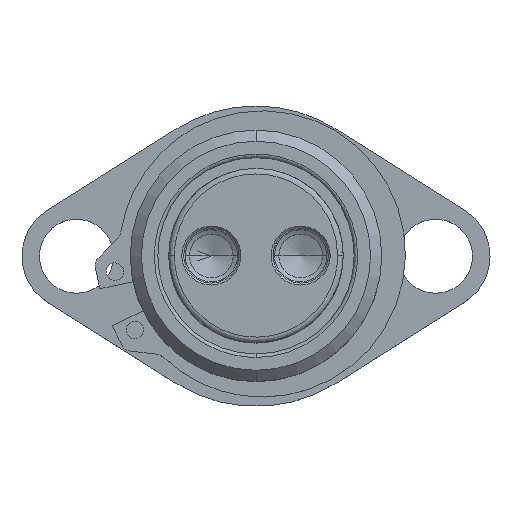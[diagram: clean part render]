
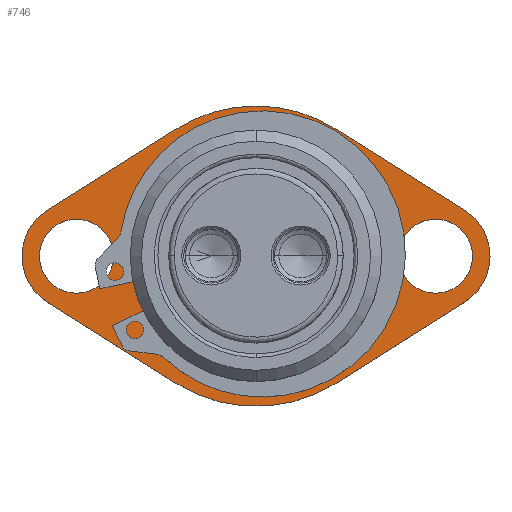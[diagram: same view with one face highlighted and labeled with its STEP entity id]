
A CAD part, top view. The second image highlights one B-rep face of the part: STEP entity #746.
In plain terms, the highlighted planar face has unit normal (0, 0, 1) as drawn and (0, 1, 0) by its records, which use the part's own axes.
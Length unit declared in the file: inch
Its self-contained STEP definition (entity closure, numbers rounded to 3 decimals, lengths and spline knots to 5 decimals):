
#105 = CARTESIAN_POINT ( 'NONE',  ( -1.285, 0.25, 0.265 ) ) ;
#139 = AXIS2_PLACEMENT_3D ( 'NONE', #3296, #2841, #2007 ) ;
#219 = EDGE_CURVE ( 'NONE', #3384, #1101, #4902, .T. ) ;
#251 = CIRCLE ( 'NONE', #574, 0.265 ) ;
#267 = DIRECTION ( 'NONE',  ( 0., -1., 0. ) ) ;
#346 = DIRECTION ( 'NONE',  ( 0., -1., 0. ) ) ;
#357 = DIRECTION ( 'NONE',  ( 0., 0., -1. ) ) ;
#368 = ORIENTED_EDGE ( 'NONE', *, *, #2235, .T. ) ;
#427 = VERTEX_POINT ( 'NONE', #1592 ) ;
#457 = FACE_OUTER_BOUND ( 'NONE', #1868, .T. ) ;
#573 = CARTESIAN_POINT ( 'NONE',  ( -1.4929, 0.25, -0.32997 ) ) ;
#574 = AXIS2_PLACEMENT_3D ( 'NONE', #3278, #1025, #4177 ) ;
#640 = EDGE_CURVE ( 'NONE', #5629, #787, #1326, .T. ) ;
#641 = CARTESIAN_POINT ( 'NONE',  ( 1.285, 0.25, 0. ) ) ;
#670 = CARTESIAN_POINT ( 'NONE',  ( -1.4929, 0.25, -0.32997 ) ) ;
#691 = EDGE_CURVE ( 'NONE', #1299, #4292, #1832, .T. ) ;
#707 = EDGE_CURVE ( 'NONE', #2969, #5481, #4274, .T. ) ;
#716 = DIRECTION ( 'NONE',  ( -0.846, 0., 0.533 ) ) ;
#746 = ADVANCED_FACE ( 'NONE', ( #3224, #457, #3854, #1618 ), #3100, .T. ) ;
#756 = AXIS2_PLACEMENT_3D ( 'NONE', #3495, #346, #4418 ) ;
#787 = VERTEX_POINT ( 'NONE', #4025 ) ;
#813 = DIRECTION ( 'NONE',  ( 0., -1., 0. ) ) ;
#833 = DIRECTION ( 'NONE',  ( 0., 0., 1. ) ) ;
#881 = DIRECTION ( 'NONE',  ( 0., -1., 0. ) ) ;
#922 = ORIENTED_EDGE ( 'NONE', *, *, #691, .T. ) ;
#975 = LINE ( 'NONE', #1534, #5338 ) ;
#983 = EDGE_LOOP ( 'NONE', ( #368, #1169 ) ) ;
#1025 = DIRECTION ( 'NONE',  ( 0., -1., 0. ) ) ;
#1062 = CIRCLE ( 'NONE', #1755, 0.265 ) ;
#1101 = VERTEX_POINT ( 'NONE', #1332 ) ;
#1169 = ORIENTED_EDGE ( 'NONE', *, *, #640, .T. ) ;
#1195 = ORIENTED_EDGE ( 'NONE', *, *, #2941, .F. ) ;
#1216 = LINE ( 'NONE', #3024, #1426 ) ;
#1221 = CIRCLE ( 'NONE', #139, 0.265 ) ;
#1299 = VERTEX_POINT ( 'NONE', #1392 ) ;
#1304 = AXIS2_PLACEMENT_3D ( 'NONE', #2216, #813, #2955 ) ;
#1315 = EDGE_CURVE ( 'NONE', #4914, #2969, #3790, .T. ) ;
#1326 = CIRCLE ( 'NONE', #5003, 0.265 ) ;
#1332 = CARTESIAN_POINT ( 'NONE',  ( 1.4929, 0.25, 0.32997 ) ) ;
#1382 = ORIENTED_EDGE ( 'NONE', *, *, #4022, .T. ) ;
#1392 = CARTESIAN_POINT ( 'NONE',  ( 0., 0.25, -0.9 ) ) ;
#1421 = CARTESIAN_POINT ( 'NONE',  ( 0.57305, 0.25, 0.90952 ) ) ;
#1426 = VECTOR ( 'NONE', #3046, 39.37008 ) ;
#1525 = LINE ( 'NONE', #670, #4947 ) ;
#1534 = CARTESIAN_POINT ( 'NONE',  ( 0.57305, 0.25, 0.90952 ) ) ;
#1571 = CIRCLE ( 'NONE', #756, 0.9 ) ;
#1573 = VERTEX_POINT ( 'NONE', #5232 ) ;
#1592 = CARTESIAN_POINT ( 'NONE',  ( 1.285, 0.25, 0.265 ) ) ;
#1614 = ORIENTED_EDGE ( 'NONE', *, *, #4527, .T. ) ;
#1618 = FACE_BOUND ( 'NONE', #4550, .T. ) ;
#1663 = CARTESIAN_POINT ( 'NONE',  ( 1.285, 0.25, 0. ) ) ;
#1666 = CARTESIAN_POINT ( 'NONE',  ( -1.4929, 0.25, 0.32997 ) ) ;
#1674 = CARTESIAN_POINT ( 'NONE',  ( -1.4929, 0.25, 0.32997 ) ) ;
#1728 = CARTESIAN_POINT ( 'NONE',  ( 0., 0.25, 0. ) ) ;
#1737 = DIRECTION ( 'NONE',  ( 0., -1., 0. ) ) ;
#1755 = AXIS2_PLACEMENT_3D ( 'NONE', #641, #2568, #5484 ) ;
#1832 = CIRCLE ( 'NONE', #1304, 0.9 ) ;
#1833 = ORIENTED_EDGE ( 'NONE', *, *, #3744, .T. ) ;
#1868 = EDGE_LOOP ( 'NONE', ( #3264, #3853, #5401, #1614, #1195, #4964, #5634, #1382, #5307 ) ) ;
#1954 = AXIS2_PLACEMENT_3D ( 'NONE', #1728, #5239, #357 ) ;
#2007 = DIRECTION ( 'NONE',  ( 0., 0., -1. ) ) ;
#2200 = CARTESIAN_POINT ( 'NONE',  ( 0., 0.25, 0. ) ) ;
#2216 = CARTESIAN_POINT ( 'NONE',  ( 0., 0.25, 0. ) ) ;
#2235 = EDGE_CURVE ( 'NONE', #787, #5629, #251, .T. ) ;
#2265 = CARTESIAN_POINT ( 'NONE',  ( 0., 0.25, 0. ) ) ;
#2288 = AXIS2_PLACEMENT_3D ( 'NONE', #1663, #1737, #3502 ) ;
#2336 = EDGE_CURVE ( 'NONE', #4914, #3857, #1525, .T. ) ;
#2379 = DIRECTION ( 'NONE',  ( 0.846, 0., -0.533 ) ) ;
#2513 = AXIS2_PLACEMENT_3D ( 'NONE', #2200, #267, #2645 ) ;
#2568 = DIRECTION ( 'NONE',  ( 0., -1., 0. ) ) ;
#2645 = DIRECTION ( 'NONE',  ( 0., 0., -1. ) ) ;
#2665 = VERTEX_POINT ( 'NONE', #5034 ) ;
#2758 = VECTOR ( 'NONE', #5657, 39.37008 ) ;
#2841 = DIRECTION ( 'NONE',  ( 0., -1., 0. ) ) ;
#2875 = CARTESIAN_POINT ( 'NONE',  ( -1.285, 0.25, 0. ) ) ;
#2928 = ORIENTED_EDGE ( 'NONE', *, *, #4601, .T. ) ;
#2932 = DIRECTION ( 'NONE',  ( 0., -1., 0. ) ) ;
#2936 = AXIS2_PLACEMENT_3D ( 'NONE', #2265, #881, #3164 ) ;
#2941 = EDGE_CURVE ( 'NONE', #4307, #2665, #4850, .T. ) ;
#2955 = DIRECTION ( 'NONE',  ( 0., 0., -1. ) ) ;
#2969 = VERTEX_POINT ( 'NONE', #4413 ) ;
#3024 = CARTESIAN_POINT ( 'NONE',  ( 0.57305, 0.25, -0.90952 ) ) ;
#3046 = DIRECTION ( 'NONE',  ( -0.846, 0., -0.533 ) ) ;
#3100 = PLANE ( 'NONE',  #5210 ) ;
#3164 = DIRECTION ( 'NONE',  ( 0., 0., -1. ) ) ;
#3224 = FACE_BOUND ( 'NONE', #983, .T. ) ;
#3264 = ORIENTED_EDGE ( 'NONE', *, *, #1315, .F. ) ;
#3278 = CARTESIAN_POINT ( 'NONE',  ( -1.285, 0.25, 0. ) ) ;
#3296 = CARTESIAN_POINT ( 'NONE',  ( 1.285, 0.25, 0. ) ) ;
#3341 = CARTESIAN_POINT ( 'NONE',  ( -1.285, 0.25, 0. ) ) ;
#3384 = VERTEX_POINT ( 'NONE', #5109 ) ;
#3495 = CARTESIAN_POINT ( 'NONE',  ( 0., 0.25, 0. ) ) ;
#3502 = DIRECTION ( 'NONE',  ( 0., 0., -1. ) ) ;
#3538 = DIRECTION ( 'NONE',  ( 0., 1., 0. ) ) ;
#3546 = CARTESIAN_POINT ( 'NONE',  ( 0.57305, 0.25, -0.90952 ) ) ;
#3636 = CARTESIAN_POINT ( 'NONE',  ( 0., 0.25, 0.9 ) ) ;
#3744 = EDGE_CURVE ( 'NONE', #1573, #427, #1221, .T. ) ;
#3790 = CIRCLE ( 'NONE', #2936, 1.075 ) ;
#3853 = ORIENTED_EDGE ( 'NONE', *, *, #2336, .T. ) ;
#3854 = FACE_BOUND ( 'NONE', #4132, .T. ) ;
#3857 = VERTEX_POINT ( 'NONE', #573 ) ;
#4004 = CARTESIAN_POINT ( 'NONE',  ( -1.285, 0.25, 0. ) ) ;
#4018 = EDGE_CURVE ( 'NONE', #4292, #1299, #1571, .T. ) ;
#4022 = EDGE_CURVE ( 'NONE', #3384, #5481, #1216, .T. ) ;
#4025 = CARTESIAN_POINT ( 'NONE',  ( -1.285, 0.25, -0.265 ) ) ;
#4037 = VERTEX_POINT ( 'NONE', #1674 ) ;
#4132 = EDGE_LOOP ( 'NONE', ( #1833, #2928 ) ) ;
#4177 = DIRECTION ( 'NONE',  ( 0., 0., -1. ) ) ;
#4190 = CARTESIAN_POINT ( 'NONE',  ( -0.57305, 0.25, -0.90952 ) ) ;
#4274 = CIRCLE ( 'NONE', #2513, 1.075 ) ;
#4292 = VERTEX_POINT ( 'NONE', #3636 ) ;
#4307 = VERTEX_POINT ( 'NONE', #1421 ) ;
#4398 = EDGE_CURVE ( 'NONE', #4307, #1101, #975, .T. ) ;
#4413 = CARTESIAN_POINT ( 'NONE',  ( 0., 0.25, -1.075 ) ) ;
#4418 = DIRECTION ( 'NONE',  ( 0., 0., -1. ) ) ;
#4527 = EDGE_CURVE ( 'NONE', #4037, #2665, #5127, .T. ) ;
#4550 = EDGE_LOOP ( 'NONE', ( #922, #4835 ) ) ;
#4601 = EDGE_CURVE ( 'NONE', #427, #1573, #1062, .T. ) ;
#4835 = ORIENTED_EDGE ( 'NONE', *, *, #4018, .T. ) ;
#4850 = CIRCLE ( 'NONE', #1954, 1.075 ) ;
#4900 = EDGE_CURVE ( 'NONE', #4037, #3857, #5304, .T. ) ;
#4902 = CIRCLE ( 'NONE', #2288, 0.39 ) ;
#4914 = VERTEX_POINT ( 'NONE', #4190 ) ;
#4947 = VECTOR ( 'NONE', #716, 39.37008 ) ;
#4964 = ORIENTED_EDGE ( 'NONE', *, *, #4398, .T. ) ;
#5003 = AXIS2_PLACEMENT_3D ( 'NONE', #3341, #2932, #5131 ) ;
#5034 = CARTESIAN_POINT ( 'NONE',  ( -0.57305, 0.25, 0.90952 ) ) ;
#5054 = DIRECTION ( 'NONE',  ( 0., -1., 0. ) ) ;
#5109 = CARTESIAN_POINT ( 'NONE',  ( 1.4929, 0.25, -0.32997 ) ) ;
#5127 = LINE ( 'NONE', #1666, #2758 ) ;
#5131 = DIRECTION ( 'NONE',  ( 0., 0., -1. ) ) ;
#5210 = AXIS2_PLACEMENT_3D ( 'NONE', #4004, #3538, #833 ) ;
#5232 = CARTESIAN_POINT ( 'NONE',  ( 1.285, 0.25, -0.265 ) ) ;
#5236 = AXIS2_PLACEMENT_3D ( 'NONE', #2875, #5054, #5508 ) ;
#5239 = DIRECTION ( 'NONE',  ( 0., -1., 0. ) ) ;
#5304 = CIRCLE ( 'NONE', #5236, 0.39 ) ;
#5307 = ORIENTED_EDGE ( 'NONE', *, *, #707, .F. ) ;
#5338 = VECTOR ( 'NONE', #2379, 39.37008 ) ;
#5401 = ORIENTED_EDGE ( 'NONE', *, *, #4900, .F. ) ;
#5481 = VERTEX_POINT ( 'NONE', #3546 ) ;
#5484 = DIRECTION ( 'NONE',  ( 0., 0., -1. ) ) ;
#5508 = DIRECTION ( 'NONE',  ( 0., 0., -1. ) ) ;
#5629 = VERTEX_POINT ( 'NONE', #105 ) ;
#5634 = ORIENTED_EDGE ( 'NONE', *, *, #219, .F. ) ;
#5657 = DIRECTION ( 'NONE',  ( 0.846, 0., 0.533 ) ) ;
